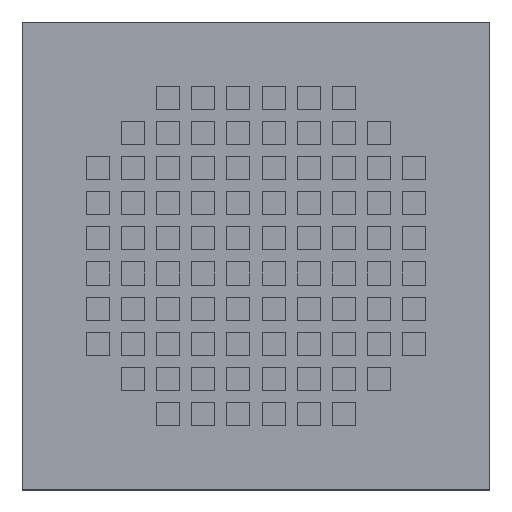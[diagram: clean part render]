
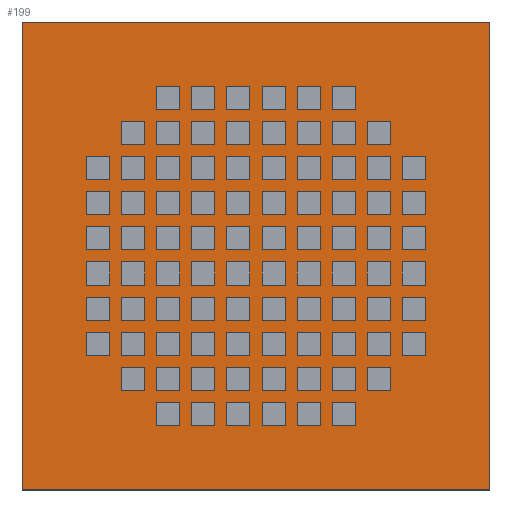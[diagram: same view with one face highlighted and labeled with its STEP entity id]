
A CAD part, top view. The second image highlights one B-rep face of the part: STEP entity #199.
In plain terms, the highlighted planar face has unit normal (0, 0, 1).
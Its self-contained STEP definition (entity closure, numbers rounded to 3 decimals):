
#72=DIRECTION('',(0.,-1.,0.));
#73=VECTOR('',#72,28.);
#74=CARTESIAN_POINT('',(-14.,14.,1.6));
#75=LINE('',#74,#73);
#79=DIRECTION('',(-1.,0.,0.));
#80=VECTOR('',#79,28.);
#81=CARTESIAN_POINT('',(14.,14.,1.6));
#82=LINE('',#81,#80);
#86=DIRECTION('',(0.,1.,0.));
#87=VECTOR('',#86,28.);
#88=CARTESIAN_POINT('',(14.,-14.,1.6));
#89=LINE('',#88,#87);
#93=DIRECTION('',(1.,0.,0.));
#94=VECTOR('',#93,28.);
#95=CARTESIAN_POINT('',(-14.,-14.,1.6));
#96=LINE('',#95,#94);
#108=CARTESIAN_POINT('',(-14.,14.,1.6));
#109=CARTESIAN_POINT('',(-14.,-14.,1.6));
#110=VERTEX_POINT('',#108);
#111=VERTEX_POINT('',#109);
#112=CARTESIAN_POINT('',(14.,-14.,1.6));
#113=VERTEX_POINT('',#112);
#114=CARTESIAN_POINT('',(14.,14.,1.6));
#115=VERTEX_POINT('',#114);
#188=CARTESIAN_POINT('',(0.,0.,1.6));
#189=DIRECTION('',(0.,0.,1.));
#190=DIRECTION('',(1.,0.,0.));
#191=AXIS2_PLACEMENT_3D('',#188,#189,#190);
#192=PLANE('',#191);
#193=ORIENTED_EDGE('',*,*,#140,.F.);
#194=ORIENTED_EDGE('',*,*,#155,.F.);
#195=ORIENTED_EDGE('',*,*,#169,.F.);
#196=ORIENTED_EDGE('',*,*,#182,.F.);
#197=EDGE_LOOP('',(#193,#194,#195,#196));
#198=FACE_OUTER_BOUND('',#197,.F.);
#140=EDGE_CURVE('',#110,#111,#75,.T.);
#155=EDGE_CURVE('',#115,#110,#82,.T.);
#169=EDGE_CURVE('',#113,#115,#89,.T.);
#182=EDGE_CURVE('',#111,#113,#96,.T.);
#199=ADVANCED_FACE('',(#198),#192,.T.);
